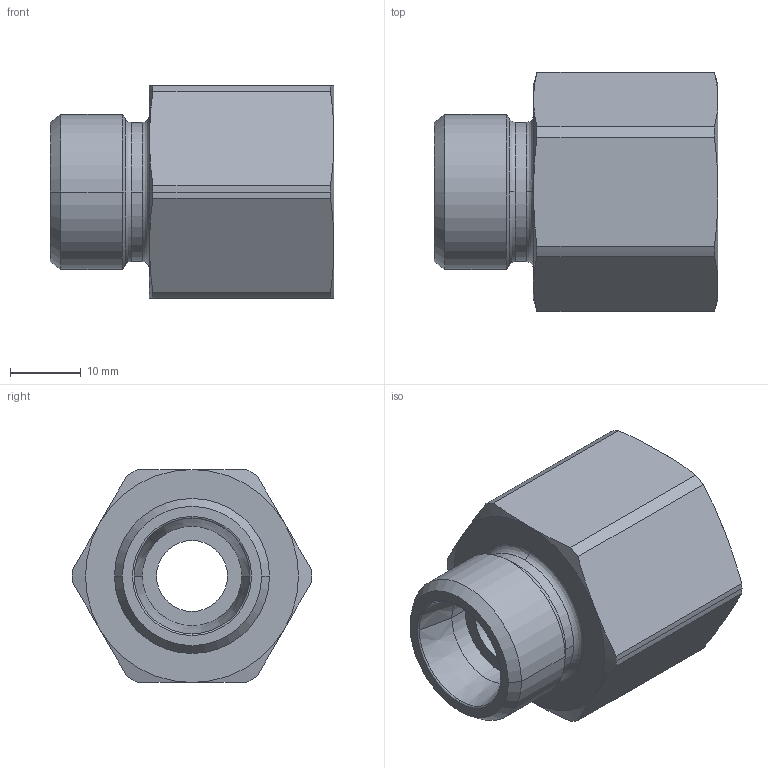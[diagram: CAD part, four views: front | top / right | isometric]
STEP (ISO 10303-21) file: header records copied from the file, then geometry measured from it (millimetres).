
FILE_DESCRIPTION((''),'2;1');
FILE_NAME('100718.stp','2007-10-30T15:09:58',(''),(''),'AutoCAD STEP 2000i','AutoCAD 2000i',', , ');
FILE_SCHEMA(('CONFIG_CONTROL_DESIGN'));
Length unit declared in the file: millimetre
Products named in the file (2): 100718.0; CHIAVE SMUSSATA#0
Assembly tree (1 placements, depth 2):
  100718.0
    CHIAVE SMUSSATA#0
Bounding box: 40 x 33.7 x 30 mm (x, y, z)
Volume: 16937.9 mm3; surface area: 6776.7 mm2
Topology: 1 solids, 1 shells, 56 faces, 134 edges, 82 vertices
Faces by surface type: cone 22, cylinder 18, plane 10, bspline 4, torus 2
Entity records: 1887 total; most frequent: CARTESIAN_POINT 498, DIRECTION 294, ORIENTED_EDGE 268, EDGE_CURVE 134, AXIS2_PLACEMENT_3D 130, VERTEX_POINT 82, CIRCLE 76, EDGE_LOOP 60
